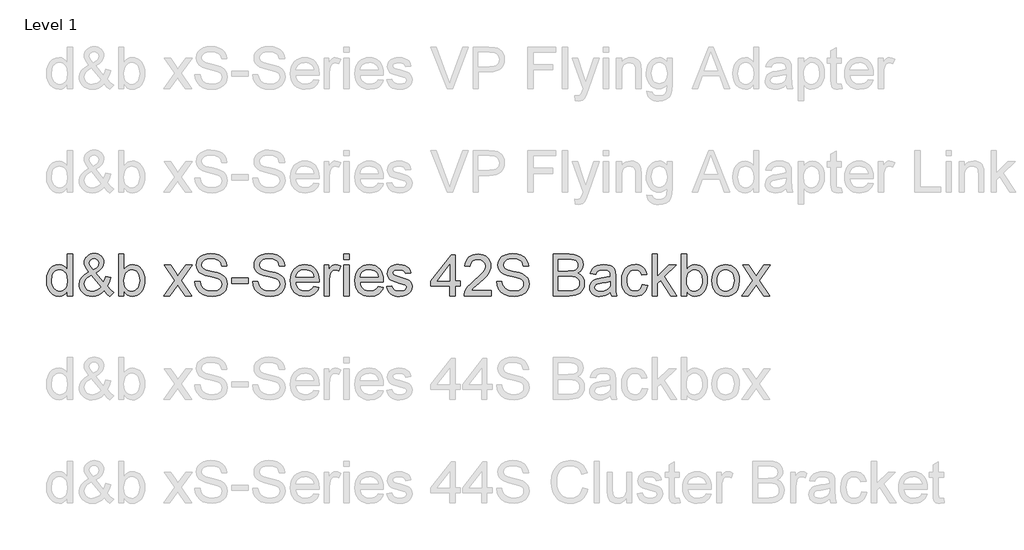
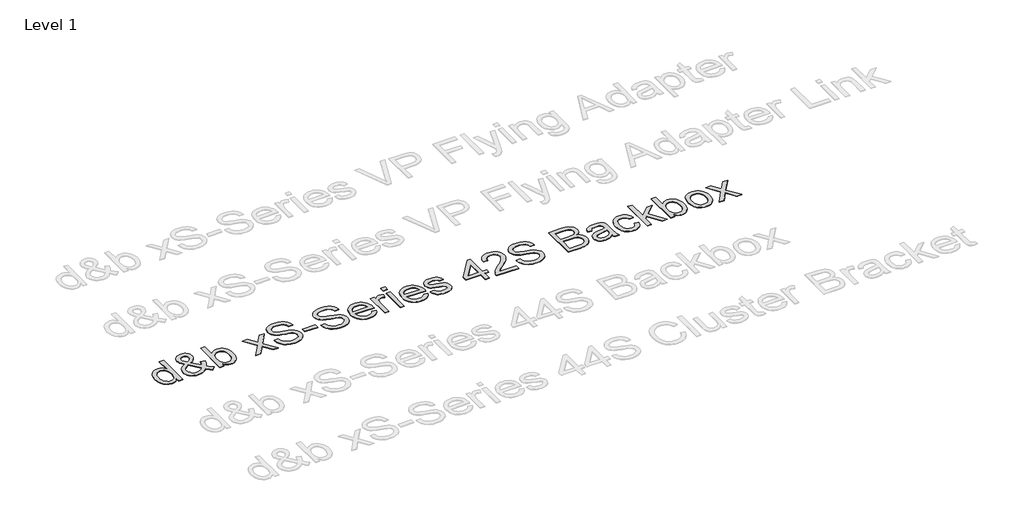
# One storey, part 9 of 55: 1 proxy.
"""IFC4 building model written with IfcOpenShell, lengths in millimetres."""

from ifc_helpers import new_model, si_unit, origin, origin_with_axes, place, context, project, spatial, polyline, outline, extrude, element, save

model = new_model("IFC4")

# Units and contexts
model_context = context("Model", 3, world=origin())
ifc_project = project(units=[si_unit("LENGTHUNIT", "METRE", prefix="MILLI")], contexts=[model_context])

# Site, building, storey
site = spatial("IfcSite", under=ifc_project)
building = spatial("IfcBuilding", under=site)
storey = spatial("IfcBuildingStorey", under=building, Name="Level 1", Elevation=0.0)

# Proxy
placement = place(None, origin())
element("IfcBuildingElementProxy", 1, Name="400mm Arial", ObjectType="400mm Arial", at=placement, inside=storey, context=model_context, shape_type="SweptSolid", body=[
    extrude(outline(polyline([(-20879.8211974, -30148.6945164), (-20879.8211974, -30101.3113154), (-20894.8491769, -30124.7883181), (-20913.0532043, -30141.5576057), (-20934.4332796, -30151.6191783), (-20958.9894028, -30154.9730358), (-20991.4611202, -30150.1169935), (-21021.1859854, -30135.5488665), (-21046.3491139, -30112.2864616), (-21065.1356211, -30081.3475858), (-21076.8342686, -30043.9830379), (-21080.7338177, -30001.4436165), (-21077.1408369, -29959.4314926), (-21066.3618945, -29921.4905962), (-21048.4092531, -29889.7791682), (-21023.2951755, -29866.4554497), (-20992.9203855, -29852.1080519), (-20959.1856065, -29847.325586), (-20934.6110892, -29850.7468885), (-20912.8815261, -29861.0107962), (-20894.4629008, -29876.7438829), (-20879.8211974, -29896.5727224), (-20879.8211974, -29746.8692758), (-20829.5930424, -29746.8692758), (-20829.5930424, -30148.6945164), (-20879.8211974, -30148.6945164)]), holes=[polyline([(-21030.5056627, -30001.2474128), (-21029.089317, -30025.6042665), (-21024.8402799, -30046.6808392), (-21017.7585515, -30064.4771307), (-21007.8441318, -30078.9931411), (-20983.1469871, -30098.3069458), (-20969.2717046, -30103.135397), (-20954.3786151, -30104.7448807), (-20939.415015, -30103.2089734), (-20925.6225058, -30098.6012514), (-20901.5507606, -30080.1703635), (-20892.0440767, -30066.2613584), (-20885.2535882, -30049.1088603), (-20879.8211974, -30005.0733855), (-20885.3516901, -29956.9298951), (-20892.2648059, -29938.3947739), (-20901.9431681, -29923.5507354), (-20913.6448812, -29912.1770504), (-20926.6280499, -29904.0529896), (-20940.8926743, -29899.1785532), (-20956.4387543, -29897.5537411), (-20971.6261493, -29899.1141738), (-20985.5014319, -29903.7954722), (-20998.064602, -29911.5976362), (-21009.3156597, -29922.5206658), (-21018.586286, -29936.8036843), (-21025.2081619, -29954.6858149), (-21030.5056627, -30001.2474128)])]), origin_with_axes(), (0.0, 0.0, 1.0), 5.0),
    extrude(outline(polyline([(-20523.809528, -30099.0549725), (-20549.3405384, -30123.5191252), (-20577.0788409, -30140.99352), (-20607.0734862, -30151.4781569), (-20639.3735254, -30154.9730358), (-20668.6814577, -30152.3855991), (-20694.8010793, -30144.623289), (-20717.7323904, -30131.6861055), (-20737.4753908, -30113.5740486), (-20750.308341, -30096.2038871), (-20759.4747341, -30077.8404442), (-20764.9745699, -30058.4837198), (-20766.8078485, -30038.1337141), (-20760.9094739, -30002.9396699), (-20743.2143499, -29971.3263438), (-20713.796053, -29943.3182613), (-20672.7281596, -29918.9399477), (-20694.6416638, -29890.5885086), (-20707.7995765, -29868.1231814), (-20714.3846642, -29848.9442668), (-20716.5796934, -29830.4520651), (-20714.8506481, -29812.8979626), (-20709.6635119, -29796.5333452), (-20701.018285, -29781.3582129), (-20688.9149674, -29767.3725657), (-20674.1935562, -29755.6555241), (-20657.6940487, -29747.2862088), (-20639.4164449, -29742.2646195), (-20619.3607448, -29740.5907564), (-20600.212487, -29742.1910431), (-20582.8913764, -29746.9919032), (-20567.397413, -29754.9933366), (-20553.7305969, -29766.1953433), (-20542.5715097, -29779.6414302), (-20534.6007332, -29794.3751041), (-20529.8182672, -29810.396365), (-20528.2241119, -29827.7052129), (-20532.9452642, -29855.68877), (-20547.108721, -29881.563137), (-20570.7144823, -29905.3283139), (-20603.7625482, -29926.9843007), (-20531.069066, -30017.5323224), (-20518.6837055, -29991.6579554), (-20509.3885538, -29961.9085647), (-20459.1603987, -29972.7978718), (-20474.6114425, -30019.3226815), (-20494.6732739, -30055.4977443), (-20466.1256311, -30088.8033276), (-20434.0463211, -30116.3209009), (-20471.7174374, -30154.9730358), (-20497.3465498, -30131.52669), (-20523.809528, -30099.0549725)]), holes=[polyline([(-20557.4584678, -30062.8553842), (-20647.1235727, -29950.9211558), (-20681.3733865, -29972.7733463), (-20702.305872, -29993.0068561), (-20713.0112381, -30012.3329235), (-20716.5796934, -30031.4627873), (-20711.6991256, -30055.1543878), (-20697.0574222, -30079.7289051), (-20686.2784798, -30090.6733944), (-20673.4639236, -30098.4908868), (-20658.6137537, -30103.1813823), (-20641.7279702, -30104.7448807), (-20619.0051256, -30101.8263502), (-20595.5710425, -30093.0707588), (-20574.1480476, -30079.6798541), (-20557.4584678, -30062.8553842)]), polyline([(-20629.1709314, -29895.2973981), (-20602.9041569, -29878.6323438), (-20587.8700461, -29864.1500559), (-20580.8067117, -29850.0601755), (-20578.452267, -29834.5723435), (-20581.5547385, -29817.0243723), (-20590.862153, -29803.0325938), (-20604.829406, -29793.8723321), (-20621.9113933, -29790.8189115), (-20639.3612626, -29793.8478066), (-20653.6473468, -29802.9344919), (-20663.1754905, -29816.3867102), (-20666.3515384, -29832.5122043), (-20662.0350563, -29850.9063041), (-20648.9875082, -29871.360543), (-20629.1709314, -29895.2973981)])]), origin_with_axes(), (0.0, 0.0, 1.0), 5.0),
    extrude(outline(polyline([(-20333.590011, -30148.6945164), (-20383.8181661, -30148.6945164), (-20383.8181661, -29746.8692758), (-20333.590011, -29746.8692758), (-20333.590011, -29895.8860093), (-20317.0721094, -29874.6408241), (-20298.4204923, -29859.4656918), (-20277.6351595, -29850.3606124), (-20254.7161112, -29847.325586), (-20228.8417442, -29850.0601755), (-20204.3898543, -29858.263944), (-20182.758393, -29871.4218567), (-20165.3453119, -29889.0188788), (-20151.6968898, -29910.883332), (-20141.3594058, -29936.8435381), (-20134.8478945, -29965.8203766), (-20132.6773907, -29996.734727), (-20134.9245365, -30032.4070178), (-20141.6659741, -30063.7873519), (-20152.9017034, -30090.8757295), (-20168.6317244, -30113.6721505), (-20187.5132678, -30131.7412878), (-20208.2035643, -30144.6478145), (-20230.702614, -30152.3917305), (-20255.0104168, -30154.9730358), (-20278.6836232, -30151.6437038), (-20299.671291, -30141.6557076), (-20317.9734203, -30125.0090473), (-20333.590011, -30101.7037229), (-20333.590011, -30148.6945164)]), holes=[polyline([(-20333.590011, -29999.0891717), (-20330.1564457, -30040.9786682), (-20319.8557498, -30069.3301073), (-20307.6849872, -30084.8240707), (-20293.5399244, -30095.8911874), (-20277.4205617, -30102.5314574), (-20259.3268989, -30104.7448807), (-20244.3050508, -30103.1139372), (-20230.3377977, -30098.2211067), (-20217.4251396, -30090.0663891), (-20205.5670767, -30078.6497845), (-20195.6526569, -30064.0019498), (-20188.5709285, -30046.1535416), (-20184.3218914, -30025.1045601), (-20182.9055458, -30000.8550053), (-20188.3379366, -29954.8942814), (-20195.1284251, -29937.1010555), (-20204.6351089, -29922.7659205), (-20216.0670419, -29911.735592), (-20228.6332778, -29903.8567859), (-20242.3338164, -29899.1295023), (-20257.1686579, -29897.5537411), (-20272.190506, -29899.1846846), (-20286.1577591, -29904.0775151), (-20299.0704171, -29912.2322327), (-20310.9284801, -29923.6488372), (-20320.8428999, -29938.1495192), (-20327.9246283, -29955.556469), (-20332.1736653, -29975.8696865), (-20333.590011, -29999.0891717)])]), origin_with_axes(), (0.0, 0.0, 1.0), 5.0),
    extrude(outline(polyline([(-19950.6003285, -30148.6945164), (-19843.2768878, -30000.2663941), (-19944.3218092, -29853.6041054), (-19884.0872638, -29853.6041054), (-19835.3306367, -29924.3355503), (-19812.4729021, -29957.5920827), (-19792.6563253, -29930.3197641), (-19737.1306695, -29853.6041054), (-19676.6999204, -29853.6041054), (-19782.8461387, -30000.364496), (-19680.623995, -30148.6945164), (-19740.9566422, -30148.6945164), (-19802.5646137, -30059.4218189), (-19813.7482263, -30043.0388074), (-19890.1695795, -30148.6945164), (-19950.6003285, -30148.6945164)])), origin_with_axes(), (0.0, 0.0, 1.0), 5.0),
    extrude(outline(polyline([(-19649.2313981, -30010.56709), (-19599.003243, -30010.56709), (-19593.2397584, -30038.4402825), (-19582.8164352, -30060.844296), (-19566.556051, -30078.6252591), (-19543.2813835, -30092.6293004), (-19514.8318425, -30101.7159856), (-19483.0468381, -30104.7448807), (-19455.063281, -30102.4517496), (-19430.5623402, -30095.5723563), (-19410.7089752, -30084.6830493), (-19396.6681457, -30070.3601769), (-19388.3172244, -30053.9158517), (-19385.533584, -30036.6621862), (-19387.6182486, -30019.849979), (-19393.8722425, -30005.3186402), (-19406.5764341, -29992.9210169), (-19428.0116917, -29982.5099565), (-19501.1466323, -29963.3310418), (-19549.1552327, -29950.639113), (-19579.8733793, -29938.5603208), (-19604.8770922, -29921.6622745), (-19622.5967416, -29901.1835101), (-19633.1549549, -29877.565486), (-19636.6743593, -29851.2496606), (-19632.3210891, -29821.8313637), (-19619.2612782, -29794.3996296), (-19597.8382834, -29771.1494875), (-19568.395461, -29754.2759667), (-19533.054264, -29744.012059), (-19493.9361452, -29740.5907564), (-19451.5561394, -29744.1714745), (-19414.4736342, -29754.9136288), (-19384.013005, -29772.59649), (-19361.4986269, -29796.999329), (-19347.249331, -29826.6015669), (-19341.5839483, -29859.8826247), (-19391.8121033, -29859.8826247), (-19401.0336787, -29829.9125049), (-19409.3968627, -29818.0544419), (-19420.2616443, -29808.2810436), (-19450.3053406, -29795.1844445), (-19491.9741079, -29790.8189115), (-19534.6238939, -29795.1353936), (-19550.9271976, -29800.5309962), (-19563.8827752, -29808.0848398), (-19580.805347, -29827.1411272), (-19586.4462043, -29849.7781326), (-19582.4485532, -29869.0796746), (-19570.4556002, -29884.6042948), (-19542.1041611, -29898.4857088), (-19488.4424407, -29912.6614283), (-19433.0639377, -29926.1259093), (-19399.5621507, -29937.8736077), (-19370.9286687, -29956.0960292), (-19350.9526764, -29978.5858819), (-19339.2172408, -30005.097911), (-19335.3054289, -30035.3868619), (-19339.805852, -30066.3502632), (-19353.3071212, -30095.4742545), (-19375.2574136, -30120.5392811), (-19405.1049061, -30139.3257883), (-19440.9979261, -30151.0612239), (-19481.0848008, -30154.9730358), (-19530.2951491, -30150.7546556), (-19570.7989567, -30138.099515), (-19603.0622077, -30116.958563), (-19627.5508858, -30087.2827487), (-19643.2717098, -30051.1322113), (-19649.2313981, -30010.56709)])), origin_with_axes(), (0.0, 0.0, 1.0), 5.0),
    extrude(outline(polyline([(-19291.3557932, -30029.4026481), (-19291.3557932, -29979.174493), (-19134.3928086, -29979.174493), (-19134.3928086, -30029.4026481), (-19291.3557932, -30029.4026481)])), origin_with_axes(), (0.0, 0.0, 1.0), 5.0),
    extrude(outline(polyline([(-19090.4431729, -30010.56709), (-19040.2150178, -30010.56709), (-19034.4515332, -30038.4402825), (-19024.02821, -30060.844296), (-19007.7678258, -30078.6252591), (-18984.4931583, -30092.6293004), (-18956.0436173, -30101.7159856), (-18924.2586129, -30104.7448807), (-18896.2750558, -30102.4517496), (-18871.774115, -30095.5723563), (-18851.9207499, -30084.6830493), (-18837.8799205, -30070.3601769), (-18829.5289992, -30053.9158517), (-18826.7453587, -30036.6621862), (-18828.8300234, -30019.849979), (-18835.0840173, -30005.3186402), (-18847.7882089, -29992.9210169), (-18869.2234665, -29982.5099565), (-18942.3584071, -29963.3310418), (-18990.3670075, -29950.639113), (-19021.0851541, -29938.5603208), (-19046.088867, -29921.6622745), (-19063.8085164, -29901.1835101), (-19074.3667297, -29877.565486), (-19077.8861341, -29851.2496606), (-19073.5328638, -29821.8313637), (-19060.473053, -29794.3996296), (-19039.0500582, -29771.1494875), (-19009.6072358, -29754.2759667), (-18974.2660388, -29744.012059), (-18935.14792, -29740.5907564), (-18892.7679141, -29744.1714745), (-18855.685409, -29754.9136288), (-18825.2247798, -29772.59649), (-18802.7104017, -29796.999329), (-18788.4611058, -29826.6015669), (-18782.7957231, -29859.8826247), (-18833.0238781, -29859.8826247), (-18842.2454535, -29829.9125049), (-18850.6086375, -29818.0544419), (-18861.4734191, -29808.2810436), (-18891.5171154, -29795.1844445), (-18933.1858827, -29790.8189115), (-18975.8356687, -29795.1353936), (-18992.1389724, -29800.5309962), (-19005.09455, -29808.0848398), (-19022.0171218, -29827.1411272), (-19027.657979, -29849.7781326), (-19023.660328, -29869.0796746), (-19011.667375, -29884.6042948), (-18983.3159359, -29898.4857088), (-18929.6542155, -29912.6614283), (-18874.2757125, -29926.1259093), (-18840.7739255, -29937.8736077), (-18812.1404435, -29956.0960292), (-18792.1644512, -29978.5858819), (-18780.4290156, -30005.097911), (-18776.5172037, -30035.3868619), (-18781.0176267, -30066.3502632), (-18794.518896, -30095.4742545), (-18816.4691883, -30120.5392811), (-18846.3166809, -30139.3257883), (-18882.2097009, -30151.0612239), (-18922.2965756, -30154.9730358), (-18971.5069238, -30150.7546556), (-19012.0107315, -30138.099515), (-19044.2739825, -30116.958563), (-19068.7626606, -30087.2827487), (-19084.4834846, -30051.1322113), (-19090.4431729, -30010.56709)])), origin_with_axes(), (0.0, 0.0, 1.0), 5.0),
    extrude(outline(polyline([(-18500.850962, -30060.795245), (-18451.6038255, -30067.0737644), (-18459.1546035, -30086.7983707), (-18469.3480004, -30104.180795), (-18482.1840164, -30119.2210372), (-18497.6626513, -30131.9190974), (-18515.6244897, -30142.0051955), (-18535.9101161, -30149.2095512), (-18583.4527326, -30154.9730358), (-18614.618469, -30152.4867667), (-18642.3874282, -30145.0279592), (-18666.7596104, -30132.5966135), (-18687.7350155, -30115.1927294), (-18704.602405, -30093.300685), (-18716.6505403, -30067.4048582), (-18723.8794215, -30037.5052491), (-18726.2890486, -30003.6018575), (-18723.8548961, -29968.5488348), (-18716.5524385, -29937.6528785), (-18704.3816758, -29910.9139888), (-18687.342608, -29888.3321657), (-18666.4223852, -29870.3917871), (-18642.6081574, -29857.5772309), (-18615.8999246, -29849.8884972), (-18586.2976867, -29847.325586), (-18557.6488763, -29849.8823658), (-18531.7407868, -29857.5527054), (-18508.5734182, -29870.3366048), (-18488.1467704, -29888.2340638), (-18471.472519, -29910.766836), (-18459.5623394, -29937.4566748), (-18452.4162316, -29968.3035801), (-18450.0341957, -30003.3075519), (-18450.3285013, -30016.8456094), (-18676.0608935, -30016.8456094), (-18673.1515601, -30036.8890467), (-18667.3666157, -30054.4431493), (-18658.7060604, -30069.507917), (-18647.1698942, -30082.0833498), (-18633.3957791, -30091.9977696), (-18618.0213774, -30099.079498), (-18582.4717139, -30104.7448807), (-18555.7389556, -30102.1206558), (-18533.2245775, -30094.2479811), (-18514.9285796, -30080.6363473), (-18500.850962, -30060.795245)]), holes=[polyline([(-18676.0608935, -29966.6174543), (-18500.2623508, -29966.6174543), (-18507.0559049, -29940.0808997), (-18520.3732332, -29921.0981887), (-18534.0707061, -29910.7974929), (-18549.65664, -29903.439853), (-18567.1310348, -29899.025269), (-18586.4938904, -29897.5537411), (-18620.3512967, -29902.2503679), (-18648.3471166, -29916.3402483), (-18667.8080741, -29938.3028034), (-18676.0608935, -29966.6174543)])]), origin_with_axes(), (0.0, 0.0, 1.0), 5.0),
    extrude(outline(polyline([(-18399.8060406, -30148.6945164), (-18399.8060406, -29853.6041054), (-18355.8564049, -29853.6041054), (-18355.8564049, -29897.2594355), (-18339.6205462, -29871.9491542), (-18324.6600117, -29857.0376707), (-18309.6504263, -29849.7536071), (-18293.2674148, -29847.325586), (-18268.2514391, -29851.2006097), (-18242.843056, -29862.8256807), (-18259.618475, -29907.8544369), (-18277.2768108, -29900.128915), (-18294.9351465, -29897.5537411), (-18309.9324692, -29900.0308132), (-18323.3356365, -29907.4620295), (-18334.1636299, -29919.2833042), (-18341.4354307, -29934.9305518), (-18347.5422718, -29962.9876853), (-18349.5778855, -29993.5954673), (-18349.5778855, -30148.6945164), (-18399.8060406, -30148.6945164)])), origin_with_axes(), (0.0, 0.0, 1.0), 5.0),
    extrude(outline(polyline([(-18211.4504591, -29797.0974309), (-18211.4504591, -29746.8692758), (-18161.222304, -29746.8692758), (-18161.222304, -29797.0974309), (-18211.4504591, -29797.0974309)])), origin_with_axes(), (0.0, 0.0, 1.0), 5.0),
    extrude(outline(polyline([(-18211.4504591, -30148.6945164), (-18211.4504591, -29853.6041054), (-18161.222304, -29853.6041054), (-18161.222304, -30148.6945164), (-18211.4504591, -30148.6945164)])), origin_with_axes(), (0.0, 0.0, 1.0), 5.0),
    extrude(outline(polyline([(-17879.2775429, -30060.795245), (-17830.0304065, -30067.0737644), (-17837.5811844, -30086.7983707), (-17847.7745814, -30104.180795), (-17860.6105973, -30119.2210372), (-17876.0892323, -30131.9190974), (-17894.0510707, -30142.0051955), (-17914.336697, -30149.2095512), (-17961.8793136, -30154.9730358), (-17993.0450499, -30152.4867667), (-18020.8140092, -30145.0279592), (-18045.1861914, -30132.5966135), (-18066.1615965, -30115.1927294), (-18083.0289859, -30093.300685), (-18095.0771213, -30067.4048582), (-18102.3060025, -30037.5052491), (-18104.7156295, -30003.6018575), (-18102.281477, -29968.5488348), (-18094.9790194, -29937.6528785), (-18082.8082567, -29910.9139888), (-18065.769189, -29888.3321657), (-18044.8489662, -29870.3917871), (-18021.0347384, -29857.5772309), (-17994.3265055, -29849.8884972), (-17964.7242676, -29847.325586), (-17936.0754573, -29849.8823658), (-17910.1673678, -29857.5527054), (-17886.9999991, -29870.3366048), (-17866.5733513, -29888.2340638), (-17849.8990999, -29910.766836), (-17837.9889203, -29937.4566748), (-17830.8428126, -29968.3035801), (-17828.4607766, -30003.3075519), (-17828.7550822, -30016.8456094), (-18054.4874745, -30016.8456094), (-18051.578141, -30036.8890467), (-18045.7931967, -30054.4431493), (-18037.1326413, -30069.507917), (-18025.5964751, -30082.0833498), (-18011.8223601, -30091.9977696), (-17996.4479584, -30099.079498), (-17960.8982949, -30104.7448807), (-17934.1655366, -30102.1206558), (-17911.6511585, -30094.2479811), (-17893.3551606, -30080.6363473), (-17879.2775429, -30060.795245)]), holes=[polyline([(-18054.4874745, -29966.6174543), (-17878.6889317, -29966.6174543), (-17885.4824859, -29940.0808997), (-17898.7998141, -29921.0981887), (-17912.4972871, -29910.7974929), (-17928.0832209, -29903.439853), (-17945.5576157, -29899.025269), (-17964.9204714, -29897.5537411), (-17998.7778777, -29902.2503679), (-18026.7736975, -29916.3402483), (-18046.234655, -29938.3028034), (-18054.4874745, -29966.6174543)])]), origin_with_axes(), (0.0, 0.0, 1.0), 5.0),
    extrude(outline(polyline([(-17797.0681797, -30060.795245), (-17746.8400246, -30054.5167257), (-17738.918299, -30076.0010342), (-17723.5898825, -30091.7954345), (-17700.7566734, -30101.5075192), (-17670.3205696, -30104.7448807), (-17640.2523479, -30101.7772993), (-17619.1113959, -30092.874555), (-17606.6034081, -30079.9741597), (-17602.4340788, -30065.0136253), (-17606.6279335, -30052.2113318), (-17619.2094978, -30042.4501962), (-17670.9091808, -30028.1273239), (-17746.545719, -30003.5528066), (-17765.6878455, -29991.2042343), (-17779.5569967, -29974.858011), (-17787.9814944, -29955.556469), (-17790.7896603, -29934.3419406), (-17788.5333174, -29914.880983), (-17781.7642887, -29896.9160789), (-17771.0957109, -29881.1584668), (-17757.1407205, -29868.3193852), (-17725.2085633, -29853.4569526), (-17704.3251287, -29848.8584276), (-17681.9946916, -29847.325586), (-17649.302245, -29849.7903953), (-17620.8772295, -29857.1848234), (-17598.0194949, -29868.785369), (-17582.0288908, -29883.8685308), (-17571.4338893, -29903.5502176), (-17564.7629625, -29928.946338), (-17614.9911176, -29935.2248574), (-17621.3309506, -29919.4181943), (-17633.8757267, -29907.5110804), (-17652.748073, -29900.0430759), (-17678.070617, -29897.5537411), (-17706.9125654, -29899.9327113), (-17726.140531, -29907.069622), (-17736.9562617, -29917.3703179), (-17740.5615053, -29929.2406436), (-17734.5772915, -29943.8578215), (-17715.8398352, -29954.9433323), (-17672.5769125, -29965.6364356), (-17598.8533607, -29989.2789852), (-17579.3801404, -30000.5852252), (-17564.6158097, -30016.0607944), (-17555.3083952, -30035.7547439), (-17552.2059237, -30059.7161245), (-17555.8479555, -30084.4868455), (-17566.7740507, -30107.7860386), (-17584.5672766, -30127.7865564), (-17608.8107, -30142.6612517), (-17638.0941069, -30151.8950898), (-17671.0072827, -30154.9730358), (-17698.040478, -30153.4892451), (-17721.6523707, -30149.037873), (-17741.8429609, -30141.6189194), (-17758.6122485, -30131.2323844), (-17772.3097214, -30117.9273189), (-17783.2848676, -30101.7527738), (-17791.5376871, -30082.7087492), (-17797.0681797, -30060.795245)])), origin_with_axes(), (0.0, 0.0, 1.0), 5.0),
    extrude(outline(polyline([(-17188.0517994, -30148.6945164), (-17188.0517994, -30054.5167257), (-17370.1288616, -30054.5167257), (-17370.1288616, -30004.2885706), (-17175.4947607, -29753.1477952), (-17137.8236444, -29753.1477952), (-17137.8236444, -30004.2885706), (-17087.5954893, -30004.2885706), (-17087.5954893, -30054.5167257), (-17137.8236444, -30054.5167257), (-17137.8236444, -30148.6945164), (-17188.0517994, -30148.6945164)]), holes=[polyline([(-17188.0517994, -30004.2885706), (-17188.0517994, -29849.0914196), (-17308.3246864, -30004.2885706), (-17188.0517994, -30004.2885706)])]), origin_with_axes(), (0.0, 0.0, 1.0), 5.0),
    extrude(outline(polyline([(-16786.2265588, -30098.4663614), (-16786.2265588, -30148.6945164), (-17049.924373, -30148.6945164), (-17048.820727, -30131.0116552), (-17044.5287704, -30114.0645579), (-17032.1311471, -30087.0007058), (-17013.9700393, -30060.7461941), (-16987.7155276, -30033.2654091), (-16951.0376927, -30002.522737), (-16896.8486748, -29954.3792466), (-16864.3646946, -29918.8418458), (-16848.1410986, -29889.9998974), (-16842.7332333, -29861.9427639), (-16847.846793, -29836.7918982), (-16863.1874722, -29815.8839381), (-16886.7687081, -29801.7940577), (-16916.6039379, -29797.0974309), (-16947.9352212, -29801.6836931), (-16972.2767465, -29815.4424797), (-16987.9853077, -29837.2946702), (-16993.4176985, -29866.1611441), (-17043.6458536, -29859.8826247), (-17039.3263058, -29833.9530755), (-17031.4689596, -29811.2976759), (-17020.0738147, -29791.9164261), (-17005.1408714, -29775.8093261), (-16987.0134861, -29763.1480541), (-16966.0350153, -29754.1042884), (-16942.2054591, -29748.678029), (-16915.5248174, -29746.8692758), (-16888.6050524, -29748.8803641), (-16864.6467375, -29754.9136288), (-16843.6498726, -29764.96907), (-16825.6144578, -29779.0466877), (-16811.1291042, -29796.1041495), (-16800.7824231, -29815.0991232), (-16794.5744144, -29836.0316087), (-16792.5050782, -29858.9016061), (-16794.7368957, -29882.9243004), (-16801.432348, -29906.5300617), (-16813.3149364, -29930.5404933), (-16831.1081622, -29955.7771982), (-16859.4718641, -29985.9067336), (-16903.0658805, -30024.5956567), (-16960.8478792, -30072.9108254), (-16983.5094101, -30098.4663614), (-16786.2265588, -30098.4663614)])), origin_with_axes(), (0.0, 0.0, 1.0), 5.0),
    extrude(outline(polyline([(-16735.9984038, -30010.56709), (-16685.7702487, -30010.56709), (-16680.0067641, -30038.4402825), (-16669.5834409, -30060.844296), (-16653.3230567, -30078.6252591), (-16630.0483891, -30092.6293004), (-16601.5988482, -30101.7159856), (-16569.8138438, -30104.7448807), (-16541.8302867, -30102.4517496), (-16517.3293458, -30095.5723563), (-16497.4759808, -30084.6830493), (-16483.4351513, -30070.3601769), (-16475.08423, -30053.9158517), (-16472.3005896, -30036.6621862), (-16474.3852543, -30019.849979), (-16480.6392482, -30005.3186402), (-16493.3434397, -29992.9210169), (-16514.7786973, -29982.5099565), (-16587.913638, -29963.3310418), (-16635.9222383, -29950.639113), (-16666.6403849, -29938.5603208), (-16691.6440979, -29921.6622745), (-16709.3637473, -29901.1835101), (-16719.9219606, -29877.565486), (-16723.441365, -29851.2496606), (-16719.0880947, -29821.8313637), (-16706.0282839, -29794.3996296), (-16684.605289, -29771.1494875), (-16655.1624667, -29754.2759667), (-16619.8212697, -29744.012059), (-16580.7031509, -29740.5907564), (-16538.323145, -29744.1714745), (-16501.2406399, -29754.9136288), (-16470.7800107, -29772.59649), (-16448.2656326, -29796.999329), (-16434.0163367, -29826.6015669), (-16428.3509539, -29859.8826247), (-16478.579109, -29859.8826247), (-16487.8006843, -29829.9125049), (-16496.1638684, -29818.0544419), (-16507.02865, -29808.2810436), (-16537.0723462, -29795.1844445), (-16578.7411136, -29790.8189115), (-16621.3908995, -29795.1353936), (-16637.6942033, -29800.5309962), (-16650.6497809, -29808.0848398), (-16667.5723527, -29827.1411272), (-16673.2132099, -29849.7781326), (-16669.2155589, -29869.0796746), (-16657.2226059, -29884.6042948), (-16628.8711668, -29898.4857088), (-16575.2094464, -29912.6614283), (-16519.8309434, -29926.1259093), (-16486.3291564, -29937.8736077), (-16457.6956744, -29956.0960292), (-16437.7196821, -29978.5858819), (-16425.9842464, -30005.097911), (-16422.0724345, -30035.3868619), (-16426.5728576, -30066.3502632), (-16440.0741268, -30095.4742545), (-16462.0244192, -30120.5392811), (-16491.8719118, -30139.3257883), (-16527.7649318, -30151.0612239), (-16567.8518065, -30154.9730358), (-16617.0621547, -30150.7546556), (-16657.5659624, -30138.099515), (-16689.8292134, -30116.958563), (-16714.3178915, -30087.2827487), (-16730.0387154, -30051.1322113), (-16735.9984038, -30010.56709)])), origin_with_axes(), (0.0, 0.0, 1.0), 5.0),
    extrude(outline(polyline([(-16189.7672173, -30148.6945164), (-16189.7672173, -29746.8692758), (-16036.4340017, -29746.8692758), (-15994.2624623, -29749.8245945), (-15961.3370238, -29758.6905506), (-15936.1003189, -29773.6878733), (-15916.9949806, -29795.0372917), (-15904.9652394, -29820.1513693), (-15900.9553256, -29846.4426692), (-15904.3275773, -29870.6370417), (-15914.4443321, -29893.3844118), (-15931.3791666, -29913.2868277), (-15955.2056572, -29928.946338), (-15926.7438535, -29943.8087706), (-15905.7132661, -29966.4212506), (-15892.7270317, -29995.2877244), (-15888.3982869, -30028.9121388), (-15891.3536056, -30056.9324841), (-15900.2195616, -30082.9172157), (-15913.4510507, -30105.0146609), (-15929.5029685, -30121.3731469), (-15949.1601297, -30133.2189472), (-15973.2073495, -30141.7783349), (-16002.4294426, -30146.965471), (-16037.6112241, -30148.6945164), (-16189.7672173, -30148.6945164)]), holes=[polyline([(-16139.5390622, -30098.4663614), (-16036.5321036, -30098.4663614), (-15999.2533948, -30096.504324), (-15967.713645, -30085.5659661), (-15956.1376249, -30076.1359242), (-15946.8179477, -30063.2477917), (-15940.6743184, -30047.4779168), (-15938.6264419, -30029.4026481), (-15941.0299376, -30008.4088489), (-15948.2404248, -29990.3581057), (-15960.8342517, -29976.2436998), (-15979.387767, -29967.0589127), (-16005.6668042, -29962.0189293), (-16041.4371969, -29960.3389349), (-16139.5390622, -29960.3389349), (-16139.5390622, -30098.4663614)]), polyline([(-16139.5390622, -29910.1107798), (-16047.8138181, -29910.1107798), (-15994.2501996, -29905.7942977), (-15975.5004806, -29898.3508187), (-15962.0237368, -29887.2039943), (-15953.8935447, -29872.5255026), (-15951.1834807, -29854.4870222), (-15953.7096037, -29836.9758392), (-15961.2879728, -29821.7209991), (-15973.5752315, -29809.8138852), (-15990.2280231, -29802.3458807), (-16015.7835591, -29798.4095434), (-16054.7790506, -29797.0974309), (-16139.5390622, -29797.0974309), (-16139.5390622, -29910.1107798)])]), origin_with_axes(), (0.0, 0.0, 1.0), 5.0),
    extrude(outline(polyline([(-15637.2575115, -30111.0234001), (-15661.2556803, -30131.6002664), (-15685.9650877, -30145.0647474), (-15711.9498193, -30152.4959637), (-15739.7739608, -30154.9730358), (-15762.1381204, -30153.4831137), (-15781.7492965, -30149.0133475), (-15798.6074889, -30141.5637371), (-15812.7126977, -30131.1342825), (-15823.8503251, -30118.3871714), (-15831.8057733, -30103.9845913), (-15836.5790422, -30087.9265422), (-15838.1701318, -30070.2130241), (-15835.7666361, -30049.3909032), (-15828.556149, -30030.4817686), (-15817.43385, -30014.2949609), (-15803.2949187, -30001.6398202), (-15786.6789152, -29992.0748883), (-15768.1253999, -29985.1587068), (-15724.6662736, -29977.6048632), (-15673.309947, -29969.6586121), (-15637.5518171, -29960.3389349), (-15637.2575115, -29949.1553222), (-15640.7156023, -29926.739046), (-15651.0898745, -29912.0728171), (-15674.2909657, -29901.1835101), (-15706.6155303, -29897.5537411), (-15736.5365993, -29899.9694995), (-15757.4322966, -29907.2167748), (-15771.6815925, -29920.6199422), (-15781.6634573, -29941.5033767), (-15831.8916124, -29935.2248574), (-15823.1728091, -29907.7563351), (-15810.1620492, -29886.1739247), (-15791.6453221, -29869.6682858), (-15766.4086173, -29857.4300781), (-15735.5433179, -29849.851709), (-15700.1408072, -29847.325586), (-15666.1852991, -29849.5574034), (-15639.2685997, -29856.2528557), (-15618.9737763, -29866.3205597), (-15604.8838959, -29878.669132), (-15595.5396932, -29893.9362348), (-15589.4819031, -29912.7595302), (-15587.0293564, -29956.7091659), (-15587.0293564, -30019.2000541), (-15584.4787079, -30106.4616634), (-15574.4723177, -30148.6945164), (-15624.7004727, -30148.6945164), (-15632.7448257, -30131.2323844), (-15637.2575115, -30111.0234001)]), holes=[polyline([(-15637.2575115, -30010.56709), (-15671.0045532, -30018.930274), (-15718.2896523, -30025.9690828), (-15761.503524, -30034.1115377), (-15772.7484503, -30039.6788185), (-15781.0748461, -30047.3552895), (-15786.2251941, -30056.5523394), (-15787.9419767, -30066.681357), (-15784.2018431, -30081.617366), (-15772.9814423, -30093.8555737), (-15754.5260288, -30102.022554), (-15729.0808575, -30104.7448807), (-15702.1028445, -30101.7405111), (-15678.2640912, -30092.7274022), (-15658.9380237, -30079.4468622), (-15645.4980682, -30063.6401991), (-15639.5383799, -30047.3552895), (-15637.5518171, -30024.7918605), (-15637.2575115, -30010.56709)])]), origin_with_axes(), (0.0, 0.0, 1.0), 5.0),
    extrude(outline(polyline([(-15329.6100617, -30041.9596869), (-15279.3819066, -30048.2382063), (-15284.8449542, -30071.9390038), (-15293.3859479, -30092.9113432), (-15305.0048876, -30111.1552245), (-15319.7017733, -30126.6706476), (-15336.857337, -30139.0529425), (-15355.8523107, -30147.8974388), (-15376.6866943, -30153.2041366), (-15399.3604879, -30154.9730358), (-15427.5310517, -30152.5051608), (-15452.7892164, -30145.1015356), (-15475.1349819, -30132.7621604), (-15494.5683483, -30115.487035), (-15510.2983693, -30093.601122), (-15521.5340985, -30067.4293837), (-15528.2755361, -30036.9718202), (-15530.522682, -30002.2284314), (-15526.6844465, -29957.530769), (-15515.16974, -29918.7927949), (-15495.7946216, -29887.5105626), (-15468.3751502, -29865.1801255), (-15435.572339, -29851.7892209), (-15400.047201, -29847.325586), (-15377.7627491, -29848.8584276), (-15357.6058815, -29853.4569526), (-15339.576598, -29861.1211608), (-15323.6748988, -29871.8510523), (-15310.1705639, -29885.4013725), (-15299.3333735, -29901.5268666), (-15291.1633275, -29920.2275347), (-15285.660426, -29941.5033767), (-15335.888581, -29947.7818961), (-15344.9997918, -29925.8683919), (-15359.1877741, -29910.1598308), (-15377.667713, -29900.7052635), (-15399.6547935, -29897.5537411), (-15416.7214524, -29899.1049768), (-15432.1142483, -29903.758684), (-15445.833181, -29911.5148628), (-15457.8782506, -29922.373513), (-15467.6853715, -29936.5860207), (-15474.6904578, -29954.403772), (-15478.8935096, -29975.8267669), (-15480.2945269, -30000.8550053), (-15474.8130852, -30047.9316379), (-15467.961283, -30065.8689509), (-15458.36876, -30080.0722616), (-15446.5628136, -30090.8665325), (-15433.0707414, -30098.576726), (-15417.8925435, -30103.202842), (-15401.0282197, -30104.7448807), (-15375.0189626, -30100.8943825), (-15353.6940696, -30089.3428879), (-15338.1817122, -30069.7960912), (-15329.6100617, -30041.9596869)])), origin_with_axes(), (0.0, 0.0, 1.0), 5.0),
    extrude(outline(polyline([(-15235.4322709, -30148.6945164), (-15235.4322709, -29746.8692758), (-15185.2041158, -29746.8692758), (-15185.2041158, -29962.7914815), (-15072.5831744, -29853.6041054), (-15003.1270537, -29853.6041054), (-15117.2195231, -29964.1649076), (-14996.8485343, -30148.6945164), (-15055.5134498, -30148.6945164), (-15153.2229077, -29999.0891717), (-15185.2041158, -30030.187463), (-15185.2041158, -30148.6945164), (-15235.4322709, -30148.6945164)])), origin_with_axes(), (0.0, 0.0, 1.0), 5.0),
    extrude(outline(polyline([(-14902.6707435, -30148.6945164), (-14952.8988986, -30148.6945164), (-14952.8988986, -29746.8692758), (-14902.6707435, -29746.8692758), (-14902.6707435, -29895.8860093), (-14886.1528419, -29874.6408241), (-14867.5012248, -29859.4656918), (-14846.7158921, -29850.3606124), (-14823.7968438, -29847.325586), (-14797.9224768, -29850.0601755), (-14773.4705868, -29858.263944), (-14751.8391255, -29871.4218567), (-14734.4260444, -29889.0188788), (-14720.7776224, -29910.883332), (-14710.4401383, -29936.8435381), (-14703.928627, -29965.8203766), (-14701.7581232, -29996.734727), (-14704.0052691, -30032.4070178), (-14710.7467066, -30063.7873519), (-14721.9824359, -30090.8757295), (-14737.7124569, -30113.6721505), (-14756.5940003, -30131.7412878), (-14777.2842968, -30144.6478145), (-14799.7833465, -30152.3917305), (-14824.0911494, -30154.9730358), (-14847.7643557, -30151.6437038), (-14868.7520236, -30141.6557076), (-14887.0541528, -30125.0090473), (-14902.6707435, -30101.7037229), (-14902.6707435, -30148.6945164)]), holes=[polyline([(-14902.6707435, -29999.0891717), (-14899.2371782, -30040.9786682), (-14888.9364824, -30069.3301073), (-14876.7657197, -30084.8240707), (-14862.620657, -30095.8911874), (-14846.5012942, -30102.5314574), (-14828.4076314, -30104.7448807), (-14813.3857833, -30103.1139372), (-14799.4185302, -30098.2211067), (-14786.5058722, -30090.0663891), (-14774.6478092, -30078.6497845), (-14764.7333894, -30064.0019498), (-14757.651661, -30046.1535416), (-14753.402624, -30025.1045601), (-14751.9862783, -30000.8550053), (-14757.4186691, -29954.8942814), (-14764.2091576, -29937.1010555), (-14773.7158415, -29922.7659205), (-14785.1477745, -29911.735592), (-14797.7140103, -29903.8567859), (-14811.4145489, -29899.1295023), (-14826.2493904, -29897.5537411), (-14841.2712385, -29899.1846846), (-14855.2384916, -29904.0775151), (-14868.1511496, -29912.2322327), (-14880.0092126, -29923.6488372), (-14889.9236324, -29938.1495192), (-14897.0053608, -29955.556469), (-14901.2543978, -29975.8696865), (-14902.6707435, -29999.0891717)])]), origin_with_axes(), (0.0, 0.0, 1.0), 5.0),
    extrude(outline(polyline([(-14657.8084875, -30001.1493109), (-14655.0922921, -29962.932503), (-14646.9437059, -29930.000933), (-14633.362729, -29902.3546011), (-14614.3493612, -29879.9935072), (-14595.2072347, -29865.7012916), (-14574.0785454, -29855.4925663), (-14550.9632934, -29849.3673311), (-14525.8614786, -29847.325586), (-14498.1507673, -29849.8118551), (-14473.0949378, -29857.2706626), (-14450.6939899, -29869.7020083), (-14430.9479238, -29887.1058924), (-14414.8316268, -29908.8937036), (-14403.319986, -29934.4768306), (-14396.4130015, -29963.8552736), (-14394.1106734, -29997.0290325), (-14398.1819008, -30047.7722224), (-14410.395583, -30086.3998319), (-14430.3961009, -30115.3276195), (-14457.827835, -30136.9713435), (-14490.409917, -30150.4726127), (-14525.8614786, -30154.9730358), (-14553.9768601, -30152.4959637), (-14579.2656816, -30145.0647474), (-14601.7279431, -30132.6793869), (-14621.3636445, -30115.3398822), (-14637.3082634, -30093.3405389), (-14648.6972768, -30066.9756626), (-14655.5306849, -30036.2452532), (-14657.8084875, -30001.1493109)]), holes=[polyline([(-14607.5803325, -30001.051209), (-14606.1271986, -30025.4141942), (-14601.7677969, -30046.5091609), (-14594.5021275, -30064.3361092), (-14584.3301904, -30078.8950392), (-14571.9570926, -30090.2043449), (-14558.0879414, -30098.2824204), (-14542.7227367, -30103.1292656), (-14525.8614786, -30104.7448807), (-14509.0860596, -30103.1200686), (-14493.7821686, -30098.2456322), (-14479.9498056, -30090.1215714), (-14467.5889706, -30078.7478864), (-14457.4170334, -30064.0448693), (-14450.151364, -30045.9328124), (-14445.7919624, -30024.4117157), (-14444.3388285, -29999.4815792), (-14445.8011594, -29975.8911462), (-14450.1881522, -29955.3480025), (-14457.4998068, -29937.8521479), (-14467.7361234, -29923.4035826), (-14480.1429437, -29912.0942769), (-14493.9661096, -29904.0162014), (-14509.2056213, -29899.1693561), (-14525.8614786, -29897.5537411), (-14542.7227367, -29899.1632248), (-14558.0879414, -29903.991676), (-14571.9570926, -29912.0390946), (-14584.3301904, -29923.3054807), (-14594.5021275, -29937.8214911), (-14601.7677969, -29955.6177826), (-14606.1271986, -29976.6943553), (-14607.5803325, -30001.051209)])]), origin_with_axes(), (0.0, 0.0, 1.0), 5.0),
    extrude(outline(polyline([(-14368.9965959, -30148.6945164), (-14261.6731551, -30000.2663941), (-14362.7180765, -29853.6041054), (-14302.4835311, -29853.6041054), (-14253.726904, -29924.3355503), (-14230.8691694, -29957.5920827), (-14211.0525926, -29930.3197641), (-14155.5269368, -29853.6041054), (-14095.0961877, -29853.6041054), (-14201.2424061, -30000.364496), (-14099.0202623, -30148.6945164), (-14159.3529095, -30148.6945164), (-14220.960881, -30059.4218189), (-14232.1444937, -30043.0388074), (-14308.5658468, -30148.6945164), (-14368.9965959, -30148.6945164)])), origin_with_axes(), (0.0, 0.0, 1.0), 5.0),
])

save(model, "model.ifc")
